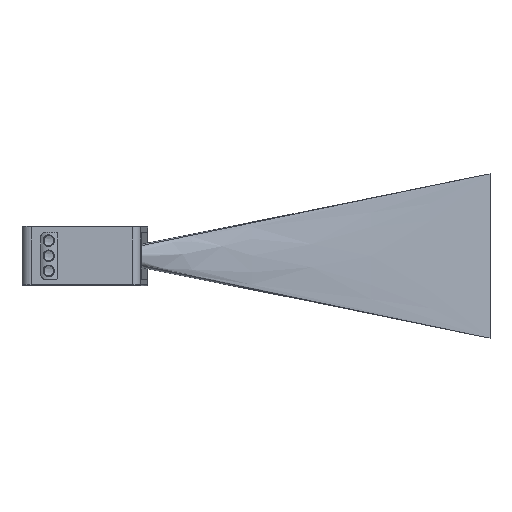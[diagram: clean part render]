
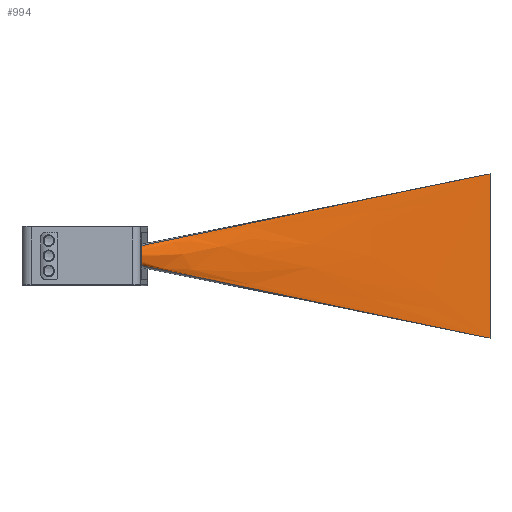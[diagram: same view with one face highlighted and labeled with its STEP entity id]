
A CAD part, top view. The second image highlights one B-rep face of the part: STEP entity #994.
In plain terms, the highlighted free-form (B-spline) face has degree [3, 3] with [10, 4] control points.
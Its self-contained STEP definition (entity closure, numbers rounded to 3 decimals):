
#994 = ADVANCED_FACE( '', ( #2145 ), #2146, .T. );
#2145 = FACE_OUTER_BOUND( '', #4985, .T. );
#2146 = B_SPLINE_SURFACE_WITH_KNOTS( '', 3, 3, ( ( #4986, #4987, #4988, #4989 ), ( #4990, #4991, #4992, #4993 ), ( #4994, #4995, #4996, #4997 ), ( #4998, #4999, #5000, #5001 ), ( #5002, #5003, #5004, #5005 ), ( #5006, #5007, #5008, #5009 ), ( #5010, #5011, #5012, #5013 ), ( #5014, #5015, #5016, #5017 ), ( #5018, #5019, #5020, #5021 ), ( #5022, #5023, #5024, #5025 ) ), .UNSPECIFIED., .F., .F., .F., ( 4, 2, 2, 2, 4 ), ( 4, 4 ), ( 0., 0.25, 0.5, 0.75, 1. ), ( 0., 1. ), .UNSPECIFIED. );
#4985 = EDGE_LOOP( '', ( #10360, #10361, #10362, #10363 ) );
#4986 = CARTESIAN_POINT( '', ( -6.765, 3.668, 31.647 ) );
#4987 = CARTESIAN_POINT( '', ( 45.49, 14.445, 21.598 ) );
#4988 = CARTESIAN_POINT( '', ( 97.745, 25.223, 11.549 ) );
#4989 = CARTESIAN_POINT( '', ( 150., 36., 1.5 ) );
#4990 = CARTESIAN_POINT( '', ( -6.662, 3.324, 32.254 ) );
#4991 = CARTESIAN_POINT( '', ( 45.559, 12.216, 22.002 ) );
#4992 = CARTESIAN_POINT( '', ( 97.779, 21.108, 11.751 ) );
#4993 = CARTESIAN_POINT( '', ( 150., 30., 1.5 ) );
#4994 = CARTESIAN_POINT( '', ( -6.573, 2.824, 32.772 ) );
#4995 = CARTESIAN_POINT( '', ( 45.618, 9.883, 22.348 ) );
#4996 = CARTESIAN_POINT( '', ( 97.809, 16.941, 11.924 ) );
#4997 = CARTESIAN_POINT( '', ( 150., 24., 1.5 ) );
#4998 = CARTESIAN_POINT( '', ( -6.447, 1.631, 33.508 ) );
#4999 = CARTESIAN_POINT( '', ( 45.702, 5.087, 22.839 ) );
#5000 = CARTESIAN_POINT( '', ( 97.851, 8.544, 12.169 ) );
#5001 = CARTESIAN_POINT( '', ( 150., 12., 1.5 ) );
#5002 = CARTESIAN_POINT( '', ( -6.41, 0.939, 33.724 ) );
#5003 = CARTESIAN_POINT( '', ( 45.727, 2.626, 22.983 ) );
#5004 = CARTESIAN_POINT( '', ( 97.863, 4.313, 12.241 ) );
#5005 = CARTESIAN_POINT( '', ( 150., 6., 1.5 ) );
#5006 = CARTESIAN_POINT( '', ( -6.397, -0.467, 33.802 ) );
#5007 = CARTESIAN_POINT( '', ( 45.735, -2.311, 23.035 ) );
#5008 = CARTESIAN_POINT( '', ( 97.868, -4.156, 12.267 ) );
#5009 = CARTESIAN_POINT( '', ( 150., -6., 1.5 ) );
#5010 = CARTESIAN_POINT( '', ( -6.421, -1.179, 33.664 ) );
#5011 = CARTESIAN_POINT( '', ( 45.72, -4.786, 22.942 ) );
#5012 = CARTESIAN_POINT( '', ( 97.86, -8.393, 12.221 ) );
#5013 = CARTESIAN_POINT( '', ( 150., -12., 1.5 ) );
#5014 = CARTESIAN_POINT( '', ( -6.523, -2.449, 33.064 ) );
#5015 = CARTESIAN_POINT( '', ( 45.651, -9.633, 22.543 ) );
#5016 = CARTESIAN_POINT( '', ( 97.826, -16.816, 12.021 ) );
#5017 = CARTESIAN_POINT( '', ( 150., -24., 1.5 ) );
#5018 = CARTESIAN_POINT( '', ( -6.602, -3.005, 32.604 ) );
#5019 = CARTESIAN_POINT( '', ( 45.599, -12.003, 22.236 ) );
#5020 = CARTESIAN_POINT( '', ( 97.799, -21.002, 11.868 ) );
#5021 = CARTESIAN_POINT( '', ( 150., -30., 1.5 ) );
#5022 = CARTESIAN_POINT( '', ( -6.698, -3.415, 32.04 ) );
#5023 = CARTESIAN_POINT( '', ( 45.535, -14.277, 21.86 ) );
#5024 = CARTESIAN_POINT( '', ( 97.767, -25.138, 11.68 ) );
#5025 = CARTESIAN_POINT( '', ( 150., -36., 1.5 ) );
#10360 = ORIENTED_EDGE( '', *, *, #12678, .T. );
#10361 = ORIENTED_EDGE( '', *, *, #12345, .F. );
#10362 = ORIENTED_EDGE( '', *, *, #12679, .F. );
#10363 = ORIENTED_EDGE( '', *, *, #12680, .T. );
#12345 = EDGE_CURVE( '', #14266, #14267, #14268, .F. );
#12678 = EDGE_CURVE( '', #14715, #14267, #14716, .T. );
#12679 = EDGE_CURVE( '', #14717, #14266, #14718, .T. );
#12680 = EDGE_CURVE( '', #14717, #14715, #14719, .T. );
#14266 = VERTEX_POINT( '', #18494 );
#14267 = VERTEX_POINT( '', #18495 );
#14268 = LINE( '', #18496, #18497 );
#14715 = VERTEX_POINT( '', #19450 );
#14716 = B_SPLINE_CURVE_WITH_KNOTS( '', 3, ( #19451, #19452, #19453, #19454 ), .UNSPECIFIED., .F., .F., ( 4, 4 ), ( 0., 1. ), .UNSPECIFIED. );
#14717 = VERTEX_POINT( '', #19455 );
#14718 = B_SPLINE_CURVE_WITH_KNOTS( '', 3, ( #19456, #19457, #19458, #19459 ), .UNSPECIFIED., .F., .F., ( 4, 4 ), ( 0., 1. ), .UNSPECIFIED. );
#14719 = B_SPLINE_CURVE_WITH_KNOTS( '', 3, ( #19460, #19461, #19462, #19463, #19464, #19465, #19466, #19467, #19468, #19469 ), .UNSPECIFIED., .F., .F., ( 4, 2, 2, 2, 4 ), ( 0., 0.25, 0.5, 0.75, 1. ), .UNSPECIFIED. );
#18494 = CARTESIAN_POINT( '', ( 150., 36., 1.5 ) );
#18495 = CARTESIAN_POINT( '', ( 150., -36., 1.5 ) );
#18496 = CARTESIAN_POINT( '', ( 150., 36., 1.5 ) );
#18497 = VECTOR( '', #20831, 1000. );
#19450 = CARTESIAN_POINT( '', ( -6.698, -3.415, 32.04 ) );
#19451 = CARTESIAN_POINT( '', ( -6.698, -3.415, 32.04 ) );
#19452 = CARTESIAN_POINT( '', ( 45.535, -14.277, 21.86 ) );
#19453 = CARTESIAN_POINT( '', ( 97.767, -25.138, 11.68 ) );
#19454 = CARTESIAN_POINT( '', ( 150., -36., 1.5 ) );
#19455 = CARTESIAN_POINT( '', ( -6.765, 3.668, 31.647 ) );
#19456 = CARTESIAN_POINT( '', ( -6.765, 3.668, 31.647 ) );
#19457 = CARTESIAN_POINT( '', ( 45.49, 14.445, 21.598 ) );
#19458 = CARTESIAN_POINT( '', ( 97.745, 25.223, 11.549 ) );
#19459 = CARTESIAN_POINT( '', ( 150., 36., 1.5 ) );
#19460 = CARTESIAN_POINT( '', ( -6.765, 3.668, 31.647 ) );
#19461 = CARTESIAN_POINT( '', ( -6.662, 3.324, 32.254 ) );
#19462 = CARTESIAN_POINT( '', ( -6.573, 2.824, 32.772 ) );
#19463 = CARTESIAN_POINT( '', ( -6.447, 1.631, 33.508 ) );
#19464 = CARTESIAN_POINT( '', ( -6.41, 0.939, 33.724 ) );
#19465 = CARTESIAN_POINT( '', ( -6.397, -0.467, 33.802 ) );
#19466 = CARTESIAN_POINT( '', ( -6.421, -1.179, 33.664 ) );
#19467 = CARTESIAN_POINT( '', ( -6.523, -2.449, 33.064 ) );
#19468 = CARTESIAN_POINT( '', ( -6.602, -3.005, 32.604 ) );
#19469 = CARTESIAN_POINT( '', ( -6.698, -3.415, 32.04 ) );
#20831 = DIRECTION( '', ( 0., 1., 0. ) );
